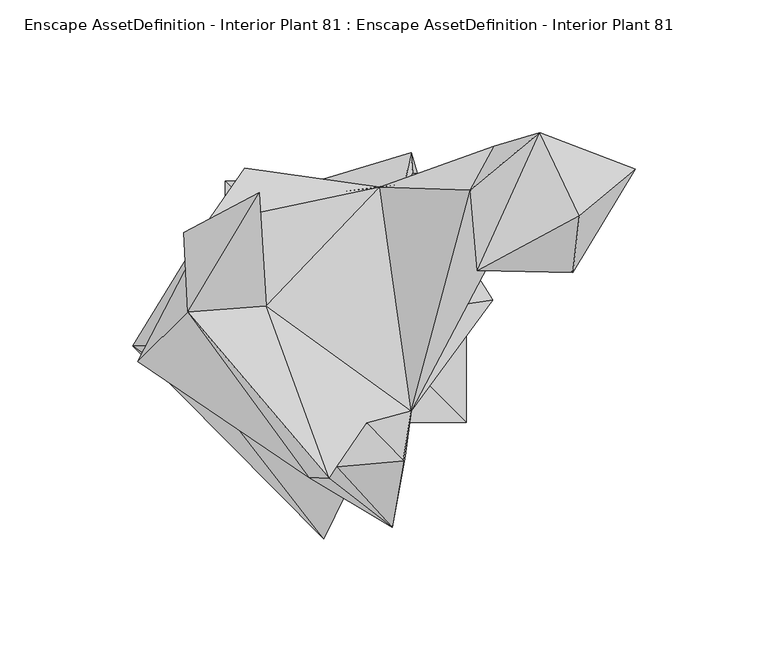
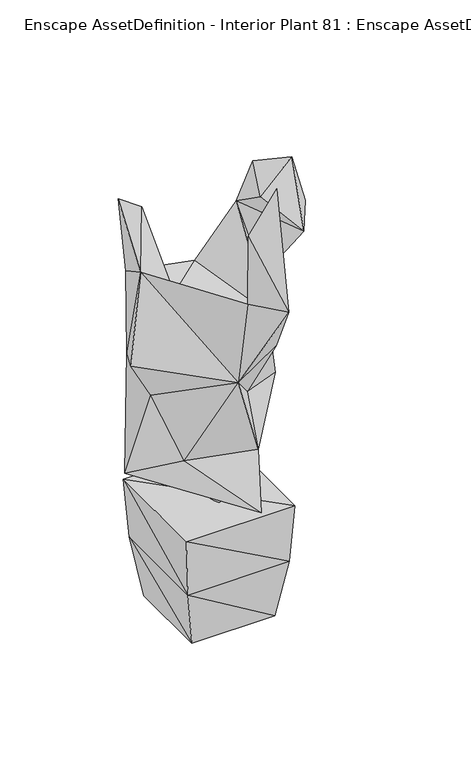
"""IFC4 building model written with IfcOpenShell, lengths in millimetres: geographic element geometry, Enscape AssetDefinition - Interior Plant 81 : Enscape AssetDefinition - Interior Plant 81."""

from ifc_helpers import new_model, si_unit, origin, place, context, project, spatial, faceted_brep, source, transform, mapped, element, save


def enscape_assetdefinition_interior_plant_81_enscape_1c3ac804(model_context):
    return source(origin(), model_context, "Body", "Brep", [
        faceted_brep([(-8.231, -89.3189982, 138.8829947), (4.1899998, -32.0460014, 121.9590008), (29.4620004, -4.644, 155.7999998), (-0.33, -12.4430005, 97.3159969), (-13.8480002, 6.9929999, 115.3249964), (-80.0810009, -16.5849999, 154.7999978), (8.4899999, -1.019, 97.7160037), (28.2109994, 43.9549983, 118.6890006), (4.3060002, -63.3819997, 175.1080006), (-44.9610017, -41.9269986, 169.103995), (-13.944, -66.0620034, 241.7310029), (7.344, -42.702999, 212.1080011), (55.3340018, 0.654, 185.9329939), (-58.2059994, -16.5989995, 216.0480022), (-78.2549977, -22.5389991, 252.083987), (-47.9810014, 35.7559994, 218.878001), (-59.4930016, -3.8439999, 317.4340129), (22.2699996, 44.507999, 242.7829951), (-39.717, 36.8059985, 158.0490023), (-52.4789989, 29.4150002, 295.8129942), (-37.9589982, 50.4139997, 267.9159939), (12.8370002, 43.2580002, 273.9639878), (24.5479997, 56.2219992, 166.3179994), (-5.2129999, 5.1870001, 98.774001), (25.1260009, 48.3580008, 202.8899938), (38.7049988, -1.836, 229.0209979), (64.2099977, 46.5370007, 233.1590056), (24.6409997, -41.1019996, 275.3370106), (58.7420017, 23.4650001, 256.6280067), (55.8010004, 58.6269982, 265.8500075), (108.8439971, 49.9310009, 289.3239856), (72.9300007, 63.5949969, 328.5560012), (46.817001, 42.0029983, 315.162003), (85.3030011, 11.0090002, 293.6500013), (87.7920017, 32.4469991, 345.6789851), (49.385, 11.6609996, 336.3600075), (22.4290006, -58.056999, 256.7529976), (7.9380004, -45.7030013, 332.5250149), (17.4620003, -84.9319994, 304.2140007), (-29.9079996, -1.584, 286.9290113), (-6.273, -66.4739981, 308.2849979), (-3.36, -62.2720011, 364.9240136), (21.7700005, -59.9399991, 396.6200054), (-32.6079987, 41.1560014, 338.1780088), (-61.028, 26.0039996, 364.3809855)], [[[0, 1, 2]], [[3, 1, 4]], [[4, 1, 5]], [[6, 1, 3]], [[5, 1, 0]], [[2, 1, 7]], [[7, 1, 6]], [[2, 8, 0]], [[8, 9, 0]], [[9, 5, 0]], [[10, 8, 11]], [[8, 2, 12]], [[10, 9, 8]], [[12, 11, 8]], [[13, 9, 10]], [[13, 5, 9]], [[14, 13, 10]], [[14, 15, 13]], [[13, 15, 5]], [[16, 15, 14]], [[10, 16, 14]], [[15, 17, 18]], [[15, 18, 5]], [[19, 15, 16]], [[20, 21, 15]], [[15, 21, 17]], [[19, 20, 15]], [[4, 5, 18]], [[22, 4, 18]], [[18, 17, 22]], [[4, 7, 23]], [[4, 22, 7]], [[23, 3, 4]], [[17, 24, 22]], [[22, 2, 7]], [[24, 2, 22]], [[23, 7, 6]], [[6, 3, 23]], [[12, 2, 24]], [[24, 25, 12]], [[26, 25, 24]], [[17, 26, 24]], [[27, 11, 12]], [[12, 25, 27]], [[28, 27, 25]], [[26, 28, 25]], [[29, 26, 17]], [[29, 28, 26]], [[29, 17, 21]], [[30, 29, 31]], [[29, 30, 28]], [[31, 29, 32]], [[32, 29, 21]], [[32, 28, 33]], [[30, 33, 28]], [[28, 32, 27]], [[31, 34, 30]], [[34, 33, 30]], [[31, 35, 34]], [[35, 31, 32]], [[32, 21, 27]], [[33, 35, 32]], [[34, 35, 33]], [[36, 11, 27]], [[37, 38, 27]], [[38, 36, 27]], [[21, 39, 27]], [[40, 37, 27]], [[39, 40, 27]], [[10, 11, 36]], [[38, 10, 36]], [[40, 16, 10]], [[40, 10, 38]], [[38, 41, 40]], [[41, 37, 40]], [[39, 16, 40]], [[41, 42, 37]], [[42, 38, 37]], [[42, 41, 38]], [[43, 16, 39]], [[19, 39, 21]], [[19, 43, 39]], [[44, 16, 43]], [[44, 19, 16]], [[44, 43, 19]], [[21, 20, 19]]]),
        faceted_brep([(-34.5899984, -34.5899984, 0.0), (-34.5899984, 34.5899984, 0.0), (34.5899984, -34.5899984, 0.0), (42.3870012, 42.3870012, 49.8489998), (-42.3870012, 42.3870012, 49.8489998), (45.3700013, 45.3700013, 99.7229964), (34.5899984, 34.5899984, 0.0), (-42.3870012, -42.3870012, 49.8489998), (42.3870012, -42.3870012, 49.8489998), (-45.3700013, -45.3700013, 99.7229964), (45.3700013, -45.3700013, 99.7229964), (-45.3700013, 45.3700013, 99.7229964)], [[[0, 1, 2]], [[3, 4, 5]], [[6, 1, 3]], [[0, 2, 7]], [[2, 6, 8]], [[1, 0, 4]], [[9, 10, 11]], [[7, 8, 9]], [[8, 3, 10]], [[4, 7, 11]], [[2, 1, 6]], [[5, 4, 11]], [[3, 1, 4]], [[7, 2, 8]], [[8, 6, 3]], [[4, 0, 7]], [[11, 10, 5]], [[9, 8, 10]], [[10, 3, 5]], [[11, 7, 9]]]),
    ])


if __name__ == "__main__":
    model = new_model("IFC4")
    model_context = context("Model", 3, world=origin())
    ifc_project = project(units=[si_unit("LENGTHUNIT", "METRE", prefix="MILLI")], contexts=[model_context])
    site = spatial("IfcSite", under=ifc_project)
    building = spatial("IfcBuilding", under=site)
    placement = place(None, origin())
    enscape_assetdefinition_interior_plant_81_enscape_shape = enscape_assetdefinition_interior_plant_81_enscape_1c3ac804(model_context)
    element("IfcGeographicElement", 1, ObjectType="Enscape AssetDefinition - Interior Plant 81 : Enscape AssetDefinition - Interior Plant 81", at=placement, inside=building, context=model_context, shape_type="MappedRepresentation", body=[
        mapped(enscape_assetdefinition_interior_plant_81_enscape_shape, transform((0.0, 0.0, 0.0), x_axis=(1.0, 0.0, 0.0), y_axis=(0.0, 1.0, 0.0), z_axis=(0.0, 0.0, 1.0))),
    ])
    save(model, "model.ifc")
